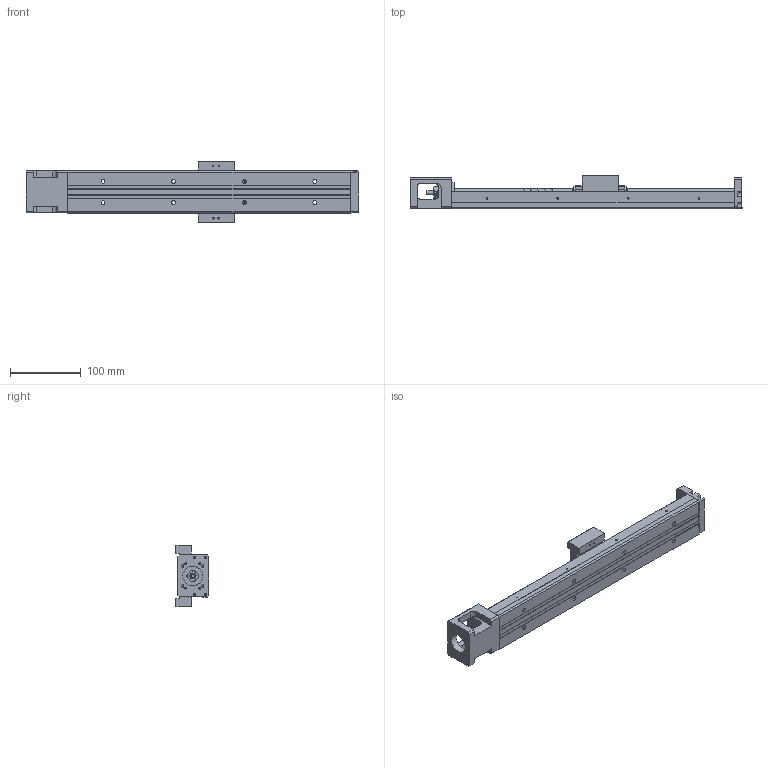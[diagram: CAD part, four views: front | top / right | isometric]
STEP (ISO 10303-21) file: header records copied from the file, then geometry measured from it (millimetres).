
FILE_DESCRIPTION(/* description */ (''),/* implementation_level */ '2;1');
FILE_NAME(/* name */ 'KP33N-400.stp',/* time_stamp */ '2019-02-25T15:02:36+08:00',/* author */ (''),/* organization */ (''),/* preprocessor_version */ 'ST-DEVELOPER v11',/* originating_system */ 'SIEMENS UGS NX 6.0',/* authorisation */ '');
FILE_SCHEMA (('CONFIG_CONTROL_DESIGN'));
Length unit declared in the file: millimetre
Products named in the file (1): darrFF5Egx9u
Bounding box: 470 x 47.95 x 86 mm (x, y, z)
Volume: 585972 mm3; surface area: 163619.1 mm2
Topology: 6 solids, 15 shells, 711 faces, 1786 edges, 1180 vertices
Faces by surface type: plane 421, cylinder 203, bspline 31, cone 24, extrusion 21, torus 9, revolution 2
Full cylindrical faces by diameter (mm): 1.6 x6, 1.65 x4, 2.15 x4, 2.42 x4, 2.45 x4, 2.5 x18, 3 x3, 3.2 x4, 3.3 x4, 3.4 x3, 3.5 x10, 3.969 x1, 4 x6, 4.001 x1, 4.135 x4, 4.2 x4, 5.5 x8, 6 x5, 7.6 x1, 8 x5, 9.5 x8, 10.72 x3, 11.8 x2, 12 x6, 12.8 x1, 13 x2, 14 x1, 17.38 x3, 21.5 x1, 22 x2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
Entity records: 32591 total; most frequent: CARTESIAN_POINT 16509, DIRECTION 3210, ORIENTED_EDGE 3086, EDGE_CURVE 1543, AXIS2_PLACEMENT_3D 1140, VERTEX_POINT 1101, EDGE_LOOP 1012, VECTOR 928
